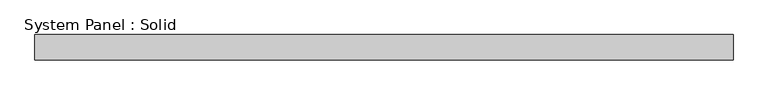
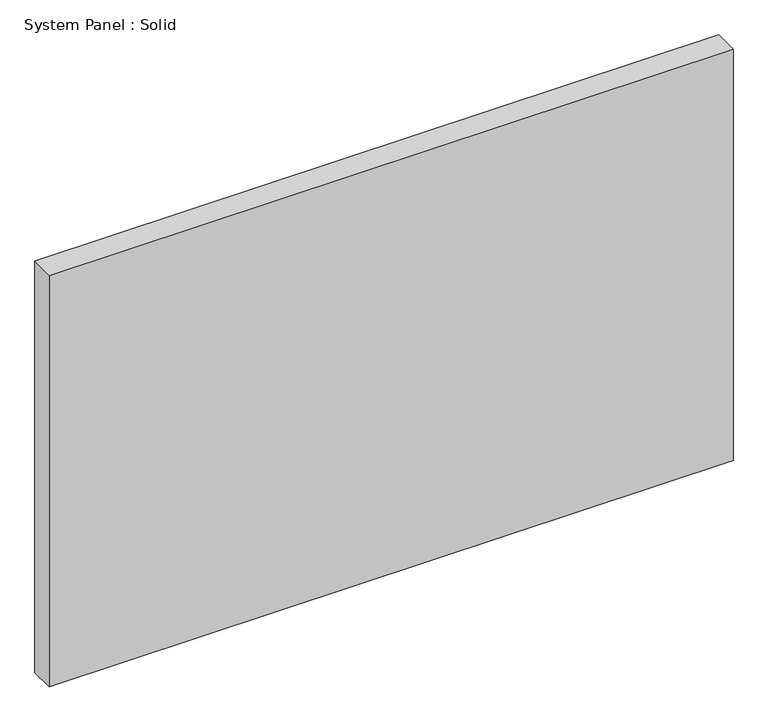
"""IFC4 building model written with IfcOpenShell, lengths in millimetres: plate geometry, System Panel : Solid."""

from ifc_helpers import new_model, si_unit, origin, origin_with_axes, place, context, project, spatial, polyline, outline, extrude, source, transform, mapped, element, save


def system_panel_solid_b7551183(model_context):
    return source(origin(), model_context, "Body", "SweptSolid", [
        extrude(outline(polyline([(882.65, -19.05), (-882.65, -19.05), (-882.65, 44.45), (882.65, 44.45), (882.65, -19.05)])), origin_with_axes(), (0.0, 0.0, 1.0), 1123.95),
    ])


if __name__ == "__main__":
    model = new_model("IFC4")
    model_context = context("Model", 3, world=origin())
    ifc_project = project(units=[si_unit("LENGTHUNIT", "METRE", prefix="MILLI")], contexts=[model_context])
    site = spatial("IfcSite", under=ifc_project)
    building = spatial("IfcBuilding", under=site)
    placement = place(None, origin())
    system_panel_solid_shape = system_panel_solid_b7551183(model_context)
    element("IfcPlate", 1, ObjectType="System Panel : Solid", at=placement, inside=building, context=model_context, shape_type="MappedRepresentation", body=[
        mapped(system_panel_solid_shape, transform((0.0, 0.0, 0.0), x_axis=(1.0, 0.0, 0.0), y_axis=(0.0, 1.0, 0.0), z_axis=(0.0, 0.0, 1.0))),
    ])
    save(model, "model.ifc")
